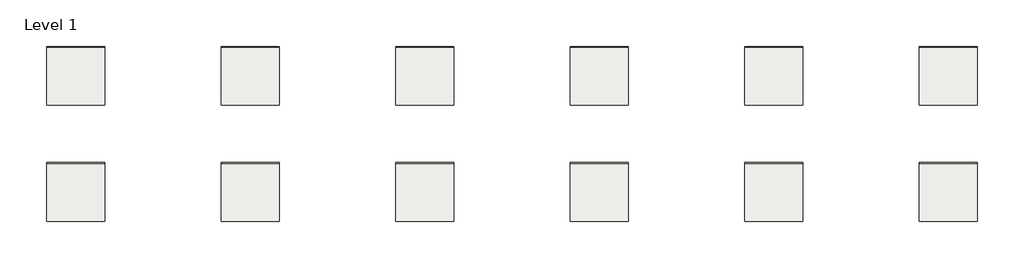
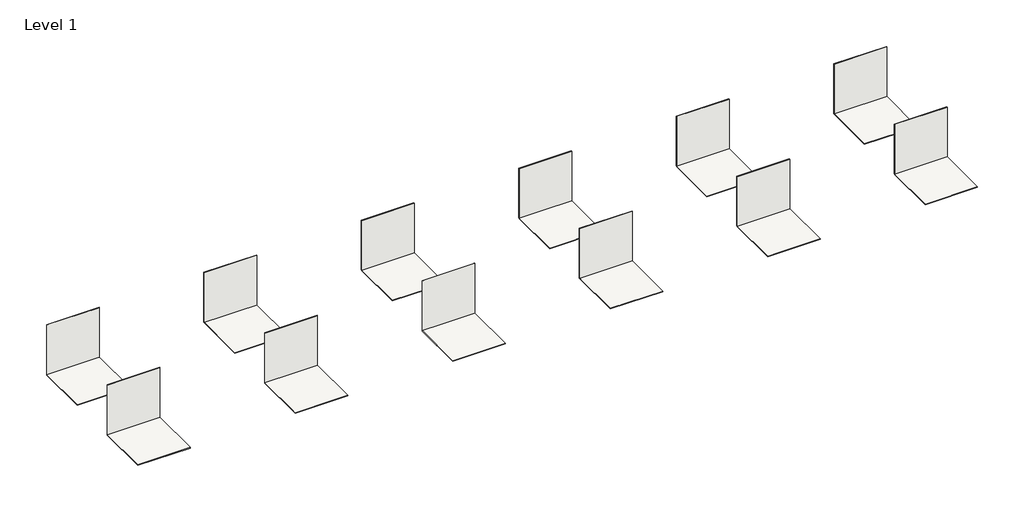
# One storey: 24 coverings.
"""IFC4 building model written with IfcOpenShell, lengths in millimetres."""

import ifcopenshell
import ifcopenshell.guid

model = None  # the IFC model being written
_history = None  # IfcOwnerHistory: only IFC2X3 demands one
_inside = {}  # id of a spatial element -> (the spatial element, [elements in it])
_under = {}  # id of a project, library or spatial element -> (it, [spatial elements below it])
_declared = {}  # id of a project -> (the project, [libraries it declares])
_typed = {}  # id of a type object -> (the type object, [elements of that type])
_made_of = {}  # id of a material, layer set ... -> (it, [elements and type objects made of it])


def new_model(schema):
    """Start an empty IFC model of exactly this schema.

    Asked for "IFC4X3", IfcOpenShell would pick the latest addendum, in which some entities
    have other attributes; the version numbers below select the first issue.
    IFC2X3 requires an IfcOwnerHistory on every rooted entity: one is made here for all.
    """
    global model, _history
    if schema == "IFC4X3":
        model = ifcopenshell.file(schema_version=(4, 3, 0, 0))
    else:
        model = ifcopenshell.file(schema=schema)
    _inside.clear()
    _under.clear()
    _declared.clear()
    _typed.clear()
    _made_of.clear()
    _history = None
    if model.schema == "IFC2X3":
        org = make("IfcOrganization", Name="unknown")
        user = make(
            "IfcPersonAndOrganization",
            ThePerson=make("IfcPerson", FamilyName="unknown"),
            TheOrganization=org,
        )
        app = make(
            "IfcApplication",
            ApplicationDeveloper=org,
            Version="unknown",
            ApplicationFullName="unknown",
            ApplicationIdentifier="unknown",
        )
        _history = make(
            "IfcOwnerHistory",
            OwningUser=user,
            OwningApplication=app,
            ChangeAction="ADDED",
            CreationDate=0,
        )
    return model


def make(cls, **values):
    """One entity of the class cls with the attributes given. An attribute that is None is left unset."""
    return model.create_entity(
        cls, **{name: value for name, value in values.items() if value is not None}
    )


def rooted(cls, **values):
    """An entity with a GlobalId (a new one), such as an element, a storey or a relation."""
    return make(cls, GlobalId=ifcopenshell.guid.new(), OwnerHistory=_history, **values)


def si_unit(unit_type, name, prefix=None):
    """IfcSIUnit, for example si_unit("LENGTHUNIT", "METRE", prefix="MILLI")."""
    return make("IfcSIUnit", UnitType=unit_type, Prefix=prefix, Name=name)


def assignment(units):
    """IfcUnitAssignment: the units of a project."""
    return None if units is None else make("IfcUnitAssignment", Units=units)


def point(xyz):
    """IfcCartesianPoint."""
    return None if xyz is None else make("IfcCartesianPoint", Coordinates=xyz)


def direction(xyz):
    """IfcDirection."""
    return None if xyz is None else make("IfcDirection", DirectionRatios=xyz)


def frame(location, z_axis=None, x_axis=None):
    """IfcAxis2Placement3D, a coordinate frame: its origin and axes. An axis left out is left unset."""
    return make(
        "IfcAxis2Placement3D",
        Location=point(location),
        Axis=direction(z_axis),
        RefDirection=direction(x_axis),
    )


def origin():
    """The frame at (0, 0, 0) with its axes left unset."""
    return frame((0.0, 0.0, 0.0))


def origin_with_axes():
    """The frame at (0, 0, 0) with the z axis (0, 0, 1) and the x axis (1, 0, 0) written out."""
    return frame((0.0, 0.0, 0.0), z_axis=(0.0, 0.0, 1.0), x_axis=(1.0, 0.0, 0.0))


def place(relative_to, where):
    """IfcLocalPlacement: puts the frame where relative to a parent placement (None: the world)."""
    return make(
        "IfcLocalPlacement", PlacementRelTo=relative_to, RelativePlacement=where
    )


def context(
    kind, dimensions, precision=None, world=None, true_north=None, identifier=None
):
    """IfcGeometricRepresentationContext, for example the 3D "Model" context."""
    return make(
        "IfcGeometricRepresentationContext",
        ContextIdentifier=identifier,
        ContextType=kind,
        CoordinateSpaceDimension=dimensions,
        Precision=precision,
        WorldCoordinateSystem=world,
        TrueNorth=true_north,
    )


def project(units=None, contexts=None):
    """IfcProject with its units and contexts."""
    return rooted(
        "IfcProject",
        Name="project",
        RepresentationContexts=contexts,
        UnitsInContext=assignment(units),
    )


def spatial(cls, under=None, at=None, **own):
    """A site, building, storey or space (cls), placed at a placement, below another one or the project."""
    s = rooted(cls, ObjectPlacement=at, **own)
    if under is not None:
        _under.setdefault(under.id(), (under, []))[1].append(s)
    return s


def polyline(points):
    """IfcPolyline through the points."""
    return make("IfcPolyline", Points=[point(p) for p in points])


def outline(outer, holes=None, kind="AREA"):
    """IfcArbitraryClosedProfileDef: a profile drawn as a closed curve; with holes, ...WithVoids."""
    if holes is None:
        return make("IfcArbitraryClosedProfileDef", ProfileType=kind, OuterCurve=outer)
    return make(
        "IfcArbitraryProfileDefWithVoids",
        ProfileType=kind,
        OuterCurve=outer,
        InnerCurves=holes,
    )


def extrude(swept, where, along, depth):
    """IfcExtrudedAreaSolid: the profile swept, set in the frame where, extruded along a direction by depth."""
    return make(
        "IfcExtrudedAreaSolid",
        SweptArea=swept,
        Position=where,
        ExtrudedDirection=direction(along),
        Depth=depth,
    )


def shape(context_of_items, identifier, shape_type, items):
    """IfcShapeRepresentation: the items that make up one representation, for example the "Body"."""
    return make(
        "IfcShapeRepresentation",
        ContextOfItems=context_of_items,
        RepresentationIdentifier=identifier,
        RepresentationType=shape_type,
        Items=items,
    )


def made_of(thing, what):
    """Note that an element or type object is made of a material, layer set ...; save() writes the relation."""
    if what is not None:
        _made_of.setdefault(what.id(), (what, []))[1].append(thing)
    return thing


def element(
    cls,
    number,
    at=None,
    inside=None,
    cuts=None,
    type_object=None,
    material=None,
    context=None,
    identifier="Body",
    shape_type=None,
    held_by="IfcProductDefinitionShape",
    body=None,
    shapes=None,
    **own,
):
    """One element of the class cls, such as IfcWall. Its Tag is "e" and its number.

    at: its placement. inside: the storey or other place that contains it. cuts: it is an
    opening in that element (IfcRelVoidsElement). A single representation is given by context,
    identifier, shape_type and body (its items); several are given by shapes. held_by: the class
    of the entity that holds the representations. save() writes the other relations.
    """
    e = rooted(cls, Tag="e%d" % number, ObjectPlacement=at, **own)
    if body is not None:
        shapes = [shape(context, identifier, shape_type, body)]
    if shapes is not None:
        e.Representation = make(held_by, Representations=shapes)
    if inside is not None:
        _inside.setdefault(inside.id(), (inside, []))[1].append(e)
    if cuts is not None:
        rooted(
            "IfcRelVoidsElement", RelatingBuildingElement=cuts, RelatedOpeningElement=e
        )
    if type_object is not None:
        _typed.setdefault(type_object.id(), (type_object, []))[1].append(e)
    return made_of(e, material)


def aggregate(whole, parts):
    """IfcRelAggregates: a whole, such as a stair, and the parts it consists of."""
    return rooted("IfcRelAggregates", RelatingObject=whole, RelatedObjects=parts)


def save(model, path):
    """Write the relations noted so far, then the file.

    IfcRelAggregates (storeys below a building ...), IfcRelContainedInSpatialStructure (elements
    in a storey), IfcRelDefinesByType, IfcRelAssociatesMaterial and IfcRelDeclares: one each for
    every whole, place, type object, material and project.
    """
    for whole, parts in _under.values():
        aggregate(whole, parts)
    for where, things in _inside.values():
        rooted(
            "IfcRelContainedInSpatialStructure",
            RelatedElements=things,
            RelatingStructure=where,
        )
    for kind, things in _typed.values():
        rooted("IfcRelDefinesByType", RelatedObjects=things, RelatingType=kind)
    for what, things in _made_of.values():
        rooted("IfcRelAssociatesMaterial", RelatedObjects=things, RelatingMaterial=what)
    for by, libraries in _declared.values():
        rooted("IfcRelDeclares", RelatingContext=by, RelatedDefinitions=libraries)
    model.write(path)


model = new_model("IFC4")

# Units and contexts
model_context = context("Model", 3, world=origin())
ifc_project = project(units=[si_unit("LENGTHUNIT", "METRE", prefix="MILLI")], contexts=[model_context])

# Site, building, storey
site = spatial("IfcSite", under=ifc_project)
building = spatial("IfcBuilding", under=site)
storey = spatial("IfcBuildingStorey", under=building, Name="Level 1", Elevation=0.0)

# Coverings
placement = place(None, origin())
element("IfcCovering", 1, ObjectType="REVIGRÉS-NORDIK-CHEVRON-RIGHT_19,5x120-MATTRECT-ALMOND", at=placement, inside=storey, context=model_context, shape_type="SweptSolid", body=[
    extrude(outline(polyline([(-4144.7065846, 7140.2812373), (-5144.7065846, 7140.2812373), (-5144.7065846, 7150.7812373), (-4144.7065846, 7150.7812373), (-4144.7065846, 7140.2812373)])), origin_with_axes(), (0.0, 0.0, 1.0), 1000.0),
])
element("IfcCovering", 2, ObjectType="REVIGRÉS-NORDIK-CHEVRON-RIGHT_19,5x120-MATTRECT-ALMOND", at=placement, inside=storey, context=model_context, shape_type="SweptSolid", body=[
    extrude(outline(polyline([(-4144.7065846, 7140.2812373), (-4144.7065846, 6141.2812373), (-5144.7065846, 6141.2812373), (-5144.7065846, 7140.2812373), (-4144.7065846, 7140.2812373)])), frame((0.0, 0.0, -10.5), z_axis=(0.0, 0.0, 1.0), x_axis=(1.0, 0.0, 0.0)), (0.0, 0.0, 1.0), 10.5),
])
element("IfcCovering", 3, ObjectType="REVIGRÉS-NORDIK-CHEVRON-RIGHT_19,5x120-MATTRECT-CHERRY", at=placement, inside=storey, context=model_context, shape_type="SweptSolid", body=[
    extrude(outline(polyline([(-1144.7065846, 7140.2812373), (-2144.7065846, 7140.2812373), (-2144.7065846, 7150.7812373), (-1144.7065846, 7150.7812373), (-1144.7065846, 7140.2812373)])), origin_with_axes(), (0.0, 0.0, 1.0), 1000.0),
])
element("IfcCovering", 4, ObjectType="REVIGRÉS-NORDIK-CHEVRON-RIGHT_19,5x120-MATTRECT-CHERRY", at=placement, inside=storey, context=model_context, shape_type="SweptSolid", body=[
    extrude(outline(polyline([(-1145.2065846, 6140.7812373), (-2144.2065846, 6140.7812373), (-2144.2065846, 7140.7812373), (-1145.2065846, 7140.7812373), (-1145.2065846, 6140.7812373)])), frame((0.0, 0.0, -10.5), z_axis=(0.0, 0.0, 1.0), x_axis=(1.0, 0.0, 0.0)), (0.0, 0.0, 1.0), 10.5),
])
element("IfcCovering", 5, ObjectType="REVIGRÉS-NORDIK-CHEVRON-RIGHT_19,5x120-MATTRECT-HONEY", at=placement, inside=storey, context=model_context, shape_type="SweptSolid", body=[
    extrude(outline(polyline([(1855.2934154, 7140.2812373), (855.2934154, 7140.2812373), (855.2934154, 7150.7812373), (1855.2934154, 7150.7812373), (1855.2934154, 7140.2812373)])), origin_with_axes(), (0.0, 0.0, 1.0), 1000.0),
])
element("IfcCovering", 6, ObjectType="REVIGRÉS-NORDIK-CHEVRON-RIGHT_19,5x120-MATTRECT-HONEY", at=placement, inside=storey, context=model_context, shape_type="SweptSolid", body=[
    extrude(outline(polyline([(1854.7934154, 6140.7812373), (855.7934154, 6140.7812373), (855.7934154, 7140.7812373), (1854.7934154, 7140.7812373), (1854.7934154, 6140.7812373)])), frame((0.0, 0.0, -10.5), z_axis=(0.0, 0.0, 1.0), x_axis=(1.0, 0.0, 0.0)), (0.0, 0.0, 1.0), 10.5),
])
element("IfcCovering", 7, ObjectType="REVIGRÉS-NORDIK-CHEVRON-RIGHT_19,5x120-MATTRECT-TAUPE", at=placement, inside=storey, context=model_context, shape_type="SweptSolid", body=[
    extrude(outline(polyline([(4855.2934154, 7140.2812373), (3855.2934154, 7140.2812373), (3855.2934154, 7150.7812373), (4855.2934154, 7150.7812373), (4855.2934154, 7140.2812373)])), origin_with_axes(), (0.0, 0.0, 1.0), 1000.0),
])
element("IfcCovering", 8, ObjectType="REVIGRÉS-NORDIK-CHEVRON-RIGHT_19,5x120-MATTRECT-TAUPE", at=placement, inside=storey, context=model_context, shape_type="SweptSolid", body=[
    extrude(outline(polyline([(4854.7934154, 6140.7812373), (3855.7934154, 6140.7812373), (3855.7934154, 7140.7812373), (4854.7934154, 7140.7812373), (4854.7934154, 6140.7812373)])), frame((0.0, 0.0, -10.5), z_axis=(0.0, 0.0, 1.0), x_axis=(1.0, 0.0, 0.0)), (0.0, 0.0, 1.0), 10.5),
])
element("IfcCovering", 9, ObjectType="REVIGRÉS-NORDIK-CHEVRON-RIGHT_19,5x120-MATTRECT-WALNUT", at=placement, inside=storey, context=model_context, shape_type="SweptSolid", body=[
    extrude(outline(polyline([(7855.2934154, 7140.2812373), (6855.2934154, 7140.2812373), (6855.2934154, 7150.7812373), (7855.2934154, 7150.7812373), (7855.2934154, 7140.2812373)])), origin_with_axes(), (0.0, 0.0, 1.0), 1000.0),
])
element("IfcCovering", 10, ObjectType="REVIGRÉS-NORDIK-CHEVRON-RIGHT_19,5x120-MATTRECT-WALNUT", at=placement, inside=storey, context=model_context, shape_type="SweptSolid", body=[
    extrude(outline(polyline([(7854.7934154, 6140.7812373), (6855.7934154, 6140.7812373), (6855.7934154, 7140.7812373), (7854.7934154, 7140.7812373), (7854.7934154, 6140.7812373)])), frame((0.0, 0.0, -10.5), z_axis=(0.0, 0.0, 1.0), x_axis=(1.0, 0.0, 0.0)), (0.0, 0.0, 1.0), 10.5),
])
element("IfcCovering", 11, ObjectType="REVIGRÉS-NORDIK-CHEVRON-RIGHT_19,5x120-MATTRECT-WHITE", at=placement, inside=storey, context=model_context, shape_type="SweptSolid", body=[
    extrude(outline(polyline([(10855.2934154, 7140.2812373), (9855.2934154, 7140.2812373), (9855.2934154, 7150.7812373), (10855.2934154, 7150.7812373), (10855.2934154, 7140.2812373)])), origin_with_axes(), (0.0, 0.0, 1.0), 1000.0),
])
element("IfcCovering", 12, ObjectType="REVIGRÉS-NORDIK-CHEVRON-RIGHT_19,5x120-MATTRECT-WHITE", at=placement, inside=storey, context=model_context, shape_type="SweptSolid", body=[
    extrude(outline(polyline([(10854.7934154, 6140.7812373), (9855.7934154, 6140.7812373), (9855.7934154, 7140.7812373), (10854.7934154, 7140.7812373), (10854.7934154, 6140.7812373)])), frame((0.0, 0.0, -10.5), z_axis=(0.0, 0.0, 1.0), x_axis=(1.0, 0.0, 0.0)), (0.0, 0.0, 1.0), 10.5),
])
element("IfcCovering", 13, ObjectType="REVIGRÉS-NORDIK-CHEVRON-LEFT_19,5x120-MATTRECT-ALMOND", at=placement, inside=storey, context=model_context, shape_type="SweptSolid", body=[
    extrude(outline(polyline([(-4144.7065846, 5140.2812373), (-5144.7065846, 5140.2812373), (-5144.7065846, 5150.7812373), (-4144.7065846, 5150.7812373), (-4144.7065846, 5140.2812373)])), origin_with_axes(), (0.0, 0.0, 1.0), 1000.0),
])
element("IfcCovering", 14, ObjectType="REVIGRÉS-NORDIK-CHEVRON-LEFT_19,5x120-MATTRECT-ALMOND", at=placement, inside=storey, context=model_context, shape_type="SweptSolid", body=[
    extrude(outline(polyline([(-4144.7065846, 5140.2812373), (-4144.7065846, 4141.2812373), (-5144.7065846, 4141.2812373), (-5144.7065846, 5140.2812373), (-4144.7065846, 5140.2812373)])), frame((0.0, 0.0, -10.5), z_axis=(0.0, 0.0, 1.0), x_axis=(1.0, 0.0, 0.0)), (0.0, 0.0, 1.0), 10.5),
])
element("IfcCovering", 15, ObjectType="REVIGRÉS-NORDIK-CHEVRON-LEFT_19,5x120-MATTRECT-CHERRY", at=placement, inside=storey, context=model_context, shape_type="SweptSolid", body=[
    extrude(outline(polyline([(-1144.7065846, 5140.2812373), (-2144.7065846, 5140.2812373), (-2144.7065846, 5150.7812373), (-1144.7065846, 5150.7812373), (-1144.7065846, 5140.2812373)])), origin_with_axes(), (0.0, 0.0, 1.0), 1000.0),
])
element("IfcCovering", 16, ObjectType="REVIGRÉS-NORDIK-CHEVRON-LEFT_19,5x120-MATTRECT-CHERRY", at=placement, inside=storey, context=model_context, shape_type="SweptSolid", body=[
    extrude(outline(polyline([(-2144.2065846, 5140.7812373), (-1145.2065846, 5140.7812373), (-1145.2065846, 4140.7812373), (-2144.2065846, 4140.7812373), (-2144.2065846, 5140.7812373)])), frame((0.0, 0.0, -10.5), z_axis=(0.0, 0.0, 1.0), x_axis=(1.0, 0.0, 0.0)), (0.0, 0.0, 1.0), 10.5),
])
element("IfcCovering", 17, ObjectType="REVIGRÉS-NORDIK-CHEVRON-LEFT_19,5x120-MATTRECT-HONEY", at=placement, inside=storey, context=model_context, shape_type="SweptSolid", body=[
    extrude(outline(polyline([(1855.2934154, 5140.2812373), (855.2934154, 5140.2812373), (855.2934154, 5150.7812373), (1855.2934154, 5150.7812373), (1855.2934154, 5140.2812373)])), origin_with_axes(), (0.0, 0.0, 1.0), 1000.0),
])
element("IfcCovering", 18, ObjectType="REVIGRÉS-NORDIK-CHEVRON-LEFT_19,5x120-MATTRECT-HONEY", at=placement, inside=storey, context=model_context, shape_type="SweptSolid", body=[
    extrude(outline(polyline([(855.7934154, 5140.7812373), (1854.7934154, 5140.7812373), (1854.7934154, 4140.7812373), (855.7934154, 4140.7812373), (855.7934154, 5140.7812373)])), frame((0.0, 0.0, -10.5), z_axis=(0.0, 0.0, 1.0), x_axis=(1.0, 0.0, 0.0)), (0.0, 0.0, 1.0), 10.5),
])
element("IfcCovering", 19, ObjectType="REVIGRÉS-NORDIK-CHEVRON-LEFT_19,5x120-MATTRECT-TAUPE", at=placement, inside=storey, context=model_context, shape_type="SweptSolid", body=[
    extrude(outline(polyline([(4855.2934154, 5140.2812373), (3855.2934154, 5140.2812373), (3855.2934154, 5150.7812373), (4855.2934154, 5150.7812373), (4855.2934154, 5140.2812373)])), origin_with_axes(), (0.0, 0.0, 1.0), 1000.0),
])
element("IfcCovering", 20, ObjectType="REVIGRÉS-NORDIK-CHEVRON-LEFT_19,5x120-MATTRECT-TAUPE", at=placement, inside=storey, context=model_context, shape_type="SweptSolid", body=[
    extrude(outline(polyline([(3855.7934154, 5140.7812373), (4854.7934154, 5140.7812373), (4854.7934154, 4140.7812373), (3855.7934154, 4140.7812373), (3855.7934154, 5140.7812373)])), frame((0.0, 0.0, -10.5), z_axis=(0.0, 0.0, 1.0), x_axis=(1.0, 0.0, 0.0)), (0.0, 0.0, 1.0), 10.5),
])
element("IfcCovering", 21, ObjectType="REVIGRÉS-NORDIK-CHEVRON-LEFT_19,5x120-MATTRECT-WALNUT", at=placement, inside=storey, context=model_context, shape_type="SweptSolid", body=[
    extrude(outline(polyline([(7855.2934154, 5140.2812373), (6855.2934154, 5140.2812373), (6855.2934154, 5150.7812373), (7855.2934154, 5150.7812373), (7855.2934154, 5140.2812373)])), origin_with_axes(), (0.0, 0.0, 1.0), 1000.0),
])
element("IfcCovering", 22, ObjectType="REVIGRÉS-NORDIK-CHEVRON-LEFT_19,5x120-MATTRECT-WALNUT", at=placement, inside=storey, context=model_context, shape_type="SweptSolid", body=[
    extrude(outline(polyline([(6855.7934154, 5140.7812373), (7854.7934154, 5140.7812373), (7854.7934154, 4140.7812373), (6855.7934154, 4140.7812373), (6855.7934154, 5140.7812373)])), frame((0.0, 0.0, -10.5), z_axis=(0.0, 0.0, 1.0), x_axis=(1.0, 0.0, 0.0)), (0.0, 0.0, 1.0), 10.5),
])
element("IfcCovering", 23, ObjectType="REVIGRÉS-NORDIK-CHEVRON-LEFT_19,5x120-MATTRECT-WHITE", at=placement, inside=storey, context=model_context, shape_type="SweptSolid", body=[
    extrude(outline(polyline([(10855.2934154, 5140.2812373), (9855.2934154, 5140.2812373), (9855.2934154, 5150.7812373), (10855.2934154, 5150.7812373), (10855.2934154, 5140.2812373)])), origin_with_axes(), (0.0, 0.0, 1.0), 1000.0),
])
element("IfcCovering", 24, ObjectType="REVIGRÉS-NORDIK-CHEVRON-LEFT_19,5x120-MATTRECT-WHITE", at=placement, inside=storey, context=model_context, shape_type="SweptSolid", body=[
    extrude(outline(polyline([(9855.7934154, 5140.7812373), (10854.7934154, 5140.7812373), (10854.7934154, 4140.7812373), (9855.7934154, 4140.7812373), (9855.7934154, 5140.7812373)])), frame((0.0, 0.0, -10.5), z_axis=(0.0, 0.0, 1.0), x_axis=(1.0, 0.0, 0.0)), (0.0, 0.0, 1.0), 10.5),
])

save(model, "model.ifc")
